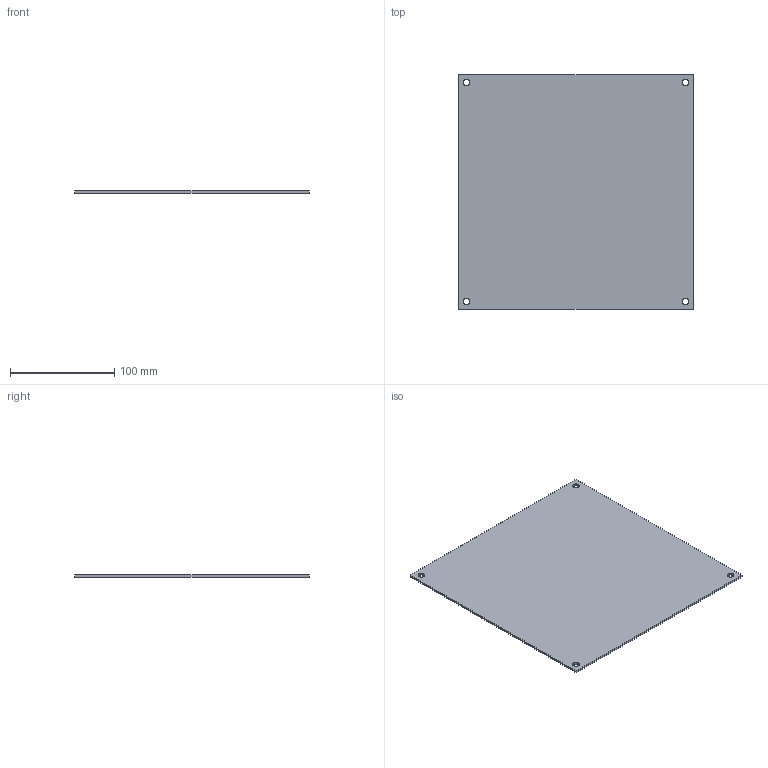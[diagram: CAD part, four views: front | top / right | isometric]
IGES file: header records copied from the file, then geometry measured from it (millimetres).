
Start section: SolidWorks IGES file using analytic representation for surfaces
Global section: file name: G:\3DRAW\ARCA\3DCAM\Solidpart\FIBOX_ABP1010.IGS; native system: SolidWorks 2009; preprocessor: SolidWorks 2009; author: KennethW; date: 100308.095431; units: millimetre
Bounding box: 225 x 225 x 2 mm (x, y, z)
Surface area: 102956.2 mm2 (no closed solid volume)
Topology: 0 solids, 0 shells, 14 faces, 312 edges, 312 vertices
Faces by surface type: revolution 8, bspline 6
